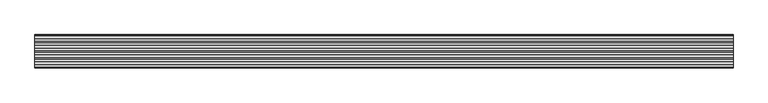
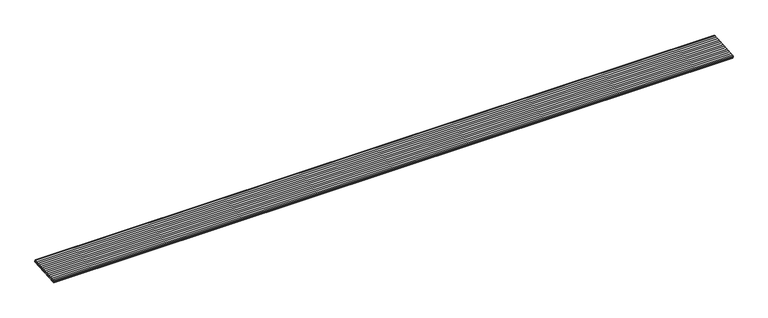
"""IFC4 building model written with IfcOpenShell, lengths in millimetres: proxy geometry, Muestra 2.5m 001 (1fila) : Muestra 2.5m 001(1fila)."""

from ifc_helpers import new_model, si_unit, point, frame, frame_2d, origin, place, context, project, spatial, polyline, circle_curve, trimmed, segment, composite_curve, outline, extrude, source, transform, mapped, element, save


def generic_models_0c7c71ab(model_context):
    return source(origin(), model_context, "Body", "SweptSolid", [
        extrude(outline(polyline([(0.0, -118.9996), (0.0, 0.0), (2500.0, 0.0), (2500.0, -118.9996), (0.0, -118.9996)])), frame((81440.6098617, 21721.2668735, -18.949093), z_axis=(0.0, -0.08112705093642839, 0.9967037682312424), x_axis=(1.0, 0.0, 0.0)), (0.0, 0.0, 1.0), 5.0),
        extrude(outline(composite_curve([segment(trimmed(circle_curve(frame_2d((21610.0590396, -14.7379381)), 5.5912705), [point((21606.1178112, -18.7039215))], [point((21614.5897648, -18.0143439))], True, "CARTESIAN"), True, "CONTINUOUS"), segment(trimmed(circle_curve(frame_2d((21618.5309932, -14.0483605)), 5.5912705), [point((21614.5897648, -18.0143439))], [point((21623.0617183, -17.3247663))], True, "CARTESIAN"), True, "CONTINUOUS"), segment(trimmed(circle_curve(frame_2d((21627.0029467, -13.3587829)), 5.5912705), [point((21623.0617183, -17.3247663))], [point((21631.5336719, -16.6351887))], True, "CARTESIAN"), True, "CONTINUOUS"), segment(trimmed(circle_curve(frame_2d((21635.4749003, -12.6692053)), 5.5912705), [point((21631.5336719, -16.6351887))], [point((21640.0056254, -15.9456111))], True, "CARTESIAN"), True, "CONTINUOUS"), segment(trimmed(circle_curve(frame_2d((21643.9468538, -11.9796277)), 5.5912705), [point((21640.0056254, -15.9456111))], [point((21648.477579, -15.2560334))], True, "CARTESIAN"), True, "CONTINUOUS"), segment(trimmed(circle_curve(frame_2d((21652.4188074, -11.29005)), 5.5912705), [point((21648.477579, -15.2560334))], [point((21656.9495325, -14.5664558))], True, "CARTESIAN"), True, "CONTINUOUS"), segment(trimmed(circle_curve(frame_2d((21660.8907609, -10.6004724)), 5.5912705), [point((21656.9495325, -14.5664558))], [point((21665.4214861, -13.8768782))], True, "CARTESIAN"), True, "CONTINUOUS"), segment(trimmed(circle_curve(frame_2d((21669.3627145, -9.9108948)), 5.5912705), [point((21665.4214861, -13.8768782))], [point((21673.8934396, -13.1873006))], True, "CARTESIAN"), True, "CONTINUOUS"), segment(trimmed(circle_curve(frame_2d((21677.834668, -9.2213172)), 5.5912705), [point((21673.8934396, -13.1873006))], [point((21682.3653932, -12.497723))], True, "CARTESIAN"), True, "CONTINUOUS"), segment(trimmed(circle_curve(frame_2d((21686.3066216, -8.5317396)), 5.5912705), [point((21682.3653932, -12.497723))], [point((21690.8373468, -11.8081454))], True, "CARTESIAN"), True, "CONTINUOUS"), segment(trimmed(circle_curve(frame_2d((21694.7785751, -7.842162)), 5.5912705), [point((21690.8373468, -11.8081454))], [point((21699.3093003, -11.1185678))], True, "CARTESIAN"), True, "CONTINUOUS"), segment(trimmed(circle_curve(frame_2d((21703.2505287, -7.1525843)), 5.5912705), [point((21699.3093003, -11.1185678))], [point((21707.7812539, -10.4289901))], True, "CARTESIAN"), True, "CONTINUOUS"), segment(trimmed(circle_curve(frame_2d((21711.7224822, -6.4630067)), 5.5912705), [point((21707.7812539, -10.4289901))], [point((21716.2532074, -9.7394125))], True, "CARTESIAN"), True, "CONTINUOUS"), segment(trimmed(circle_curve(frame_2d((21720.1944358, -5.7734291)), 5.5912705), [point((21716.2532074, -9.7394125))], [point((21720.6480391, -11.3462695))], True, "CARTESIAN"), True, "CONTINUOUS"), segment(polyline([(21720.6480391, -11.3462695), (21720.8612383, -13.9655742), (21602.2538886, -23.6196608), (21602.0406893, -21.0003561)]), True, "CONTINUOUS"), segment(trimmed(circle_curve(frame_2d((21601.587086, -15.4275157)), 5.5912705), [point((21602.0406893, -21.0003561))], [point((21606.1178112, -18.7039215))], True, "CARTESIAN"), True, "CONTINUOUS")], self_intersect=False)), frame((81440.6098617, 0.0, 0.0), z_axis=(1.0, 0.0, 0.0), x_axis=(0.0, 1.0, 0.0)), (0.0, 0.0, 1.0), 2500.0),
    ])


if __name__ == "__main__":
    model = new_model("IFC4")
    model_context = context("Model", 3, world=origin())
    ifc_project = project(units=[si_unit("LENGTHUNIT", "METRE", prefix="MILLI")], contexts=[model_context])
    site = spatial("IfcSite", under=ifc_project)
    building = spatial("IfcBuilding", under=site)
    placement = place(None, origin())
    generic_models_shape = generic_models_0c7c71ab(model_context)
    element("IfcBuildingElementProxy", 1, Name="Muestra 2.5m 001 (1fila) : Muestra 2.5m 001(1fila)", ObjectType="Muestra 2.5m 001 (1fila) : Muestra 2.5m 001(1fila)", at=placement, inside=building, context=model_context, shape_type="MappedRepresentation", body=[
        mapped(generic_models_shape, transform((0.0, 0.0, 0.0), x_axis=(1.0, 0.0, 0.0), y_axis=(0.0, 1.0, 0.0), z_axis=(0.0, 0.0, 1.0))),
    ])
    save(model, "model.ifc")
